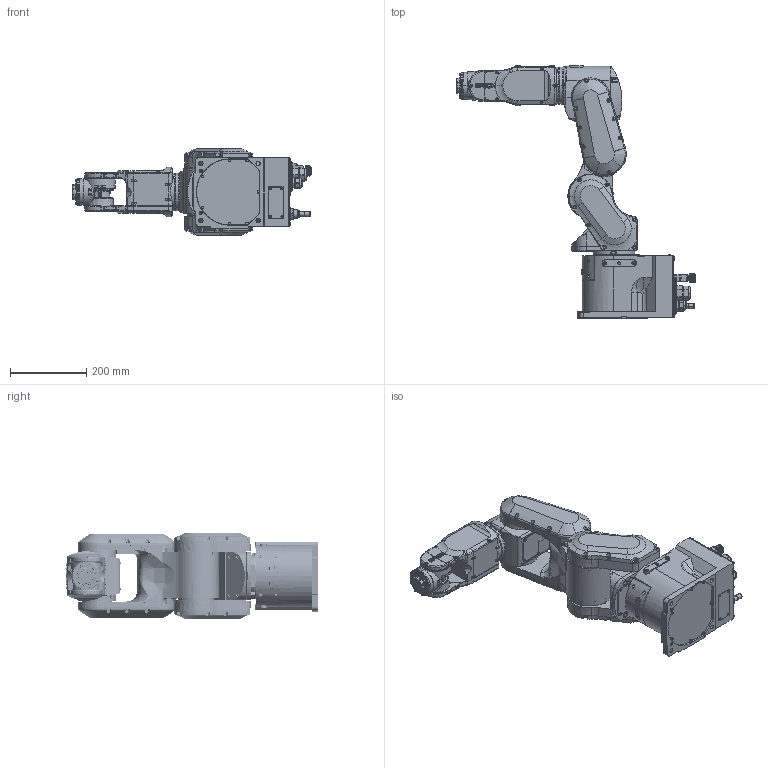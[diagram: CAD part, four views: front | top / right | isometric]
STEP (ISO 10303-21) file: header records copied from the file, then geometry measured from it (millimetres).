
FILE_DESCRIPTION (( 'STEP AP214' ), '1' );
FILE_NAME ('CX4-x601PN.STEP', '2026-07-23T21:05:28', ( '' ), ( '' ), 'SwSTEP 2.0', 'SolidWorks 2020', '' );
FILE_SCHEMA (( 'AUTOMOTIVE_DESIGN' ));
Length unit declared in the file: millimetre
Products named in the file (8): CX4-A601P-NIW_J5; CX4-A601P-NIW_J2; CX4-A601P-NIW_BASE; CX4-x601PN; CX4-A601P-NIW_J4; CX4-A601P-NIW_J6; CX4-A601P-NIW_J1; CX4-A601P-NIW_J3
Assembly tree (7 placements, depth 2):
  CX4-x601PN
    CX4-A601P-NIW_BASE
    CX4-A601P-NIW_J1
    CX4-A601P-NIW_J2
    CX4-A601P-NIW_J3
    CX4-A601P-NIW_J4
    CX4-A601P-NIW_J5
    CX4-A601P-NIW_J6
Bounding box: 628 x 662 x 228 mm (x, y, z)
Volume: 9080189.2 mm3; surface area: 1024224.5 mm2
Topology: 5 solids, 7 shells, 3946 faces, 9954 edges, 6239 vertices
Faces by surface type: plane 1490, cylinder 1307, cone 766, torus 307, bspline 46, sphere 30
Entity records: 180161 total; most frequent: CARTESIAN_POINT 72942, ORIENTED_EDGE 19612, DIRECTION 15050, EDGE_CURVE 9810, AXIS2_PLACEMENT_3D 6272, VERTEX_POINT 6239, B_SPLINE_CURVE_WITH_KNOTS 4926, EDGE_LOOP 4327
